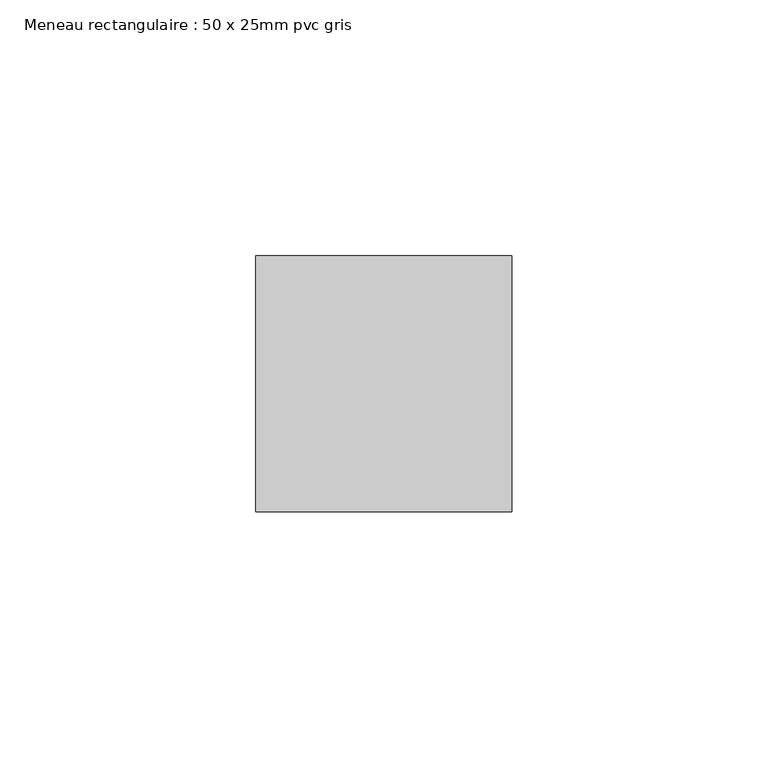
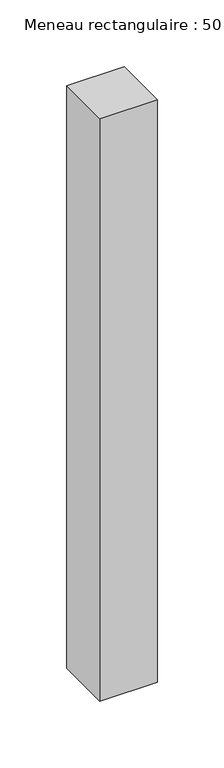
"""IFC4 building model written with IfcOpenShell, lengths in millimetres: member geometry, Meneau rectangulaire : 50 x 25mm pvc gris."""

from ifc_helpers import new_model, si_unit, frame, origin, place, context, project, spatial, polyline, outline, extrude, source, transform, mapped, element, save


def meneau_rectangulaire_50_x_25mm_pvc_gris_4e365186(model_context):
    return source(origin(), model_context, "Body", "SweptSolid", [
        extrude(outline(polyline([(0.0, 0.0), (0.0, -50.0), (-50.0, -50.0), (-50.0, 0.0), (0.0, 0.0)])), frame((0.0, 0.0, -535.0), z_axis=(0.0, 0.0, 1.0), x_axis=(1.0, 0.0, 0.0)), (0.0, 0.0, 1.0), 535.0),
    ])


if __name__ == "__main__":
    model = new_model("IFC4")
    model_context = context("Model", 3, world=origin())
    ifc_project = project(units=[si_unit("LENGTHUNIT", "METRE", prefix="MILLI")], contexts=[model_context])
    site = spatial("IfcSite", under=ifc_project)
    building = spatial("IfcBuilding", under=site)
    placement = place(None, origin())
    meneau_rectangulaire_50_x_25mm_pvc_gris_shape = meneau_rectangulaire_50_x_25mm_pvc_gris_4e365186(model_context)
    element("IfcMember", 1, ObjectType="Meneau rectangulaire : 50 x 25mm pvc gris", at=placement, inside=building, context=model_context, shape_type="MappedRepresentation", body=[
        mapped(meneau_rectangulaire_50_x_25mm_pvc_gris_shape, transform((0.0, 0.0, 0.0), x_axis=(1.0, 0.0, 0.0), y_axis=(0.0, 1.0, 0.0), z_axis=(0.0, 0.0, 1.0))),
    ])
    save(model, "model.ifc")
